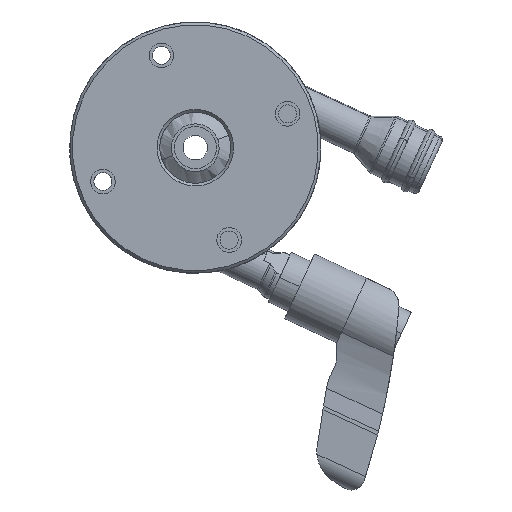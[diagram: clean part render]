
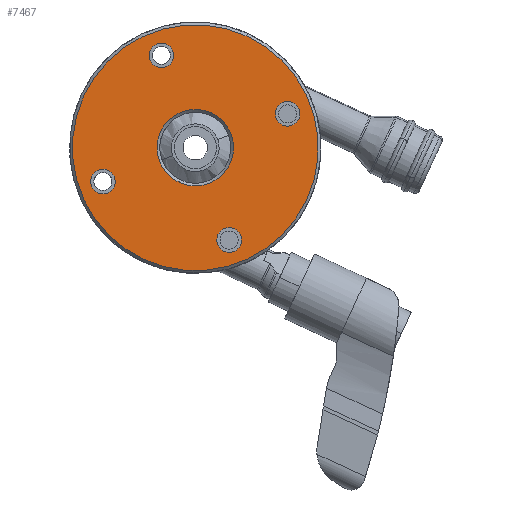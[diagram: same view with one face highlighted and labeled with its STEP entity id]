
A CAD part, front view. The second image highlights one B-rep face of the part: STEP entity #7467.
In plain terms, the highlighted planar face has unit normal (0, -1, 0).
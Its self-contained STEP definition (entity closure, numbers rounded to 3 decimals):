
#3 = VERTEX_POINT ( 'NONE', #13497 ) ;
#59 = CIRCLE ( 'NONE', #14742, 7. ) ;
#361 = DIRECTION ( 'NONE',  ( 0., -1., 0. ) ) ;
#796 = EDGE_CURVE ( 'NONE', #13151, #3172, #12881, .T. ) ;
#1084 = VERTEX_POINT ( 'NONE', #6428 ) ;
#1096 = CIRCLE ( 'NONE', #12020, 2.25 ) ;
#1187 = CARTESIAN_POINT ( 'NONE',  ( -12.728, -23., 12.728 ) ) ;
#1242 = AXIS2_PLACEMENT_3D ( 'NONE', #15076, #4193, #11753 ) ;
#1840 = AXIS2_PLACEMENT_3D ( 'NONE', #13831, #11770, #11537 ) ;
#1848 = FACE_BOUND ( 'NONE', #3426, .T. ) ;
#2084 = CARTESIAN_POINT ( 'NONE',  ( 0., -23., 0. ) ) ;
#2125 = EDGE_LOOP ( 'NONE', ( #8503, #12185 ) ) ;
#2217 = AXIS2_PLACEMENT_3D ( 'NONE', #12159, #15545, #2548 ) ;
#2292 = DIRECTION ( 'NONE',  ( 0., 1., 0. ) ) ;
#2308 = CARTESIAN_POINT ( 'NONE',  ( 0., -23., 7. ) ) ;
#2385 = DIRECTION ( 'NONE',  ( 0., 0., 1. ) ) ;
#2387 = VERTEX_POINT ( 'NONE', #5479 ) ;
#2548 = DIRECTION ( 'NONE',  ( 0., 0., 1. ) ) ;
#2703 = ORIENTED_EDGE ( 'NONE', *, *, #8786, .F. ) ;
#2776 = EDGE_CURVE ( 'NONE', #11129, #1084, #13900, .T. ) ;
#2887 = EDGE_LOOP ( 'NONE', ( #11879, #14486 ) ) ;
#2947 = VERTEX_POINT ( 'NONE', #2308 ) ;
#3036 = FACE_BOUND ( 'NONE', #11531, .T. ) ;
#3172 = VERTEX_POINT ( 'NONE', #4548 ) ;
#3426 = EDGE_LOOP ( 'NONE', ( #8238, #12432 ) ) ;
#3472 = CIRCLE ( 'NONE', #7797, 2.25 ) ;
#3527 = EDGE_CURVE ( 'NONE', #1084, #11129, #15433, .T. ) ;
#3692 = VERTEX_POINT ( 'NONE', #6730 ) ;
#3740 = VERTEX_POINT ( 'NONE', #4751 ) ;
#3928 = VERTEX_POINT ( 'NONE', #13844 ) ;
#4193 = DIRECTION ( 'NONE',  ( 0., -1., 0. ) ) ;
#4370 = PLANE ( 'NONE',  #15270 ) ;
#4388 = CARTESIAN_POINT ( 'NONE',  ( -12.728, -23., -12.728 ) ) ;
#4470 = DIRECTION ( 'NONE',  ( 0., -1., 0. ) ) ;
#4548 = CARTESIAN_POINT ( 'NONE',  ( 12.728, -23., 10.478 ) ) ;
#4552 = DIRECTION ( 'NONE',  ( 0., 0., 1. ) ) ;
#4751 = CARTESIAN_POINT ( 'NONE',  ( -12.728, -23., 14.978 ) ) ;
#4924 = DIRECTION ( 'NONE',  ( 0., -1., 0. ) ) ;
#4963 = DIRECTION ( 'NONE',  ( 0., 0., 1. ) ) ;
#5131 = CIRCLE ( 'NONE', #13991, 2.25 ) ;
#5479 = CARTESIAN_POINT ( 'NONE',  ( 12.728, -23., -10.478 ) ) ;
#5612 = EDGE_CURVE ( 'NONE', #3692, #2947, #13245, .T. ) ;
#6035 = AXIS2_PLACEMENT_3D ( 'NONE', #7665, #11328, #4963 ) ;
#6324 = VERTEX_POINT ( 'NONE', #8882 ) ;
#6347 = EDGE_CURVE ( 'NONE', #10312, #3, #5131, .T. ) ;
#6385 = DIRECTION ( 'NONE',  ( 0., 0., 1. ) ) ;
#6428 = CARTESIAN_POINT ( 'NONE',  ( 0., -23., -22.5 ) ) ;
#6460 = CARTESIAN_POINT ( 'NONE',  ( -12.728, -23., -12.728 ) ) ;
#6522 = CIRCLE ( 'NONE', #2217, 2.25 ) ;
#6548 = CIRCLE ( 'NONE', #14661, 2.25 ) ;
#6586 = EDGE_LOOP ( 'NONE', ( #9147, #13192 ) ) ;
#6679 = DIRECTION ( 'NONE',  ( 0., -1., 0. ) ) ;
#6730 = CARTESIAN_POINT ( 'NONE',  ( 0., -23., -7. ) ) ;
#7465 = DIRECTION ( 'NONE',  ( 0., 0., 1. ) ) ;
#7467 = ADVANCED_FACE ( 'NONE', ( #13909, #9372, #3036, #14120, #1848, #10346 ), #4370, .F. ) ;
#7665 = CARTESIAN_POINT ( 'NONE',  ( 12.728, -23., 12.728 ) ) ;
#7723 = ORIENTED_EDGE ( 'NONE', *, *, #9818, .F. ) ;
#7728 = EDGE_CURVE ( 'NONE', #2947, #3692, #59, .T. ) ;
#7797 = AXIS2_PLACEMENT_3D ( 'NONE', #15353, #12605, #11568 ) ;
#8027 = DIRECTION ( 'NONE',  ( 0., 1., 0. ) ) ;
#8070 = DIRECTION ( 'NONE',  ( 0., 0., 1. ) ) ;
#8238 = ORIENTED_EDGE ( 'NONE', *, *, #5612, .T. ) ;
#8503 = ORIENTED_EDGE ( 'NONE', *, *, #2776, .T. ) ;
#8786 = EDGE_CURVE ( 'NONE', #2387, #6324, #6522, .T. ) ;
#8882 = CARTESIAN_POINT ( 'NONE',  ( 12.728, -23., -14.978 ) ) ;
#8938 = DIRECTION ( 'NONE',  ( 0., -1., 0. ) ) ;
#9147 = ORIENTED_EDGE ( 'NONE', *, *, #796, .F. ) ;
#9221 = CARTESIAN_POINT ( 'NONE',  ( 6.5, -23., 0. ) ) ;
#9372 = FACE_BOUND ( 'NONE', #2887, .T. ) ;
#9425 = EDGE_CURVE ( 'NONE', #3740, #3928, #6548, .T. ) ;
#9452 = AXIS2_PLACEMENT_3D ( 'NONE', #13399, #9590, #2385 ) ;
#9590 = DIRECTION ( 'NONE',  ( 0., -1., 0. ) ) ;
#9712 = ORIENTED_EDGE ( 'NONE', *, *, #14749, .F. ) ;
#9818 = EDGE_CURVE ( 'NONE', #6324, #2387, #12505, .T. ) ;
#10312 = VERTEX_POINT ( 'NONE', #14911 ) ;
#10327 = EDGE_CURVE ( 'NONE', #3172, #13151, #1096, .T. ) ;
#10346 = FACE_OUTER_BOUND ( 'NONE', #2125, .T. ) ;
#10376 = CARTESIAN_POINT ( 'NONE',  ( 12.728, -23., 12.728 ) ) ;
#11129 = VERTEX_POINT ( 'NONE', #12621 ) ;
#11328 = DIRECTION ( 'NONE',  ( 0., -1., 0. ) ) ;
#11531 = EDGE_LOOP ( 'NONE', ( #12335, #9712 ) ) ;
#11537 = DIRECTION ( 'NONE',  ( 0., 0., 1. ) ) ;
#11568 = DIRECTION ( 'NONE',  ( 0., 0., 1. ) ) ;
#11753 = DIRECTION ( 'NONE',  ( 0., 0., 1. ) ) ;
#11770 = DIRECTION ( 'NONE',  ( 0., 1., 0. ) ) ;
#11879 = ORIENTED_EDGE ( 'NONE', *, *, #6347, .F. ) ;
#12020 = AXIS2_PLACEMENT_3D ( 'NONE', #10376, #4470, #4552 ) ;
#12139 = AXIS2_PLACEMENT_3D ( 'NONE', #4388, #8938, #13928 ) ;
#12159 = CARTESIAN_POINT ( 'NONE',  ( 12.728, -23., -12.728 ) ) ;
#12185 = ORIENTED_EDGE ( 'NONE', *, *, #3527, .T. ) ;
#12262 = CARTESIAN_POINT ( 'NONE',  ( 12.728, -23., 14.978 ) ) ;
#12335 = ORIENTED_EDGE ( 'NONE', *, *, #9425, .F. ) ;
#12432 = ORIENTED_EDGE ( 'NONE', *, *, #7728, .T. ) ;
#12505 = CIRCLE ( 'NONE', #9452, 2.25 ) ;
#12605 = DIRECTION ( 'NONE',  ( 0., -1., 0. ) ) ;
#12621 = CARTESIAN_POINT ( 'NONE',  ( 0., -23., 22.5 ) ) ;
#12870 = DIRECTION ( 'NONE',  ( 0., 0., 1. ) ) ;
#12881 = CIRCLE ( 'NONE', #6035, 2.25 ) ;
#13151 = VERTEX_POINT ( 'NONE', #12262 ) ;
#13192 = ORIENTED_EDGE ( 'NONE', *, *, #10327, .F. ) ;
#13245 = CIRCLE ( 'NONE', #1840, 7. ) ;
#13397 = CIRCLE ( 'NONE', #12139, 2.25 ) ;
#13399 = CARTESIAN_POINT ( 'NONE',  ( 12.728, -23., -12.728 ) ) ;
#13457 = EDGE_LOOP ( 'NONE', ( #2703, #7723 ) ) ;
#13497 = CARTESIAN_POINT ( 'NONE',  ( -12.728, -23., -14.978 ) ) ;
#13831 = CARTESIAN_POINT ( 'NONE',  ( 0., -23., 0. ) ) ;
#13844 = CARTESIAN_POINT ( 'NONE',  ( -12.728, -23., 10.478 ) ) ;
#13900 = CIRCLE ( 'NONE', #1242, 22.5 ) ;
#13909 = FACE_BOUND ( 'NONE', #6586, .T. ) ;
#13928 = DIRECTION ( 'NONE',  ( 0., 0., 1. ) ) ;
#13991 = AXIS2_PLACEMENT_3D ( 'NONE', #6460, #361, #6385 ) ;
#14120 = FACE_BOUND ( 'NONE', #13457, .T. ) ;
#14408 = CARTESIAN_POINT ( 'NONE',  ( 0., -23., 0. ) ) ;
#14486 = ORIENTED_EDGE ( 'NONE', *, *, #15022, .F. ) ;
#14661 = AXIS2_PLACEMENT_3D ( 'NONE', #1187, #4924, #7465 ) ;
#14742 = AXIS2_PLACEMENT_3D ( 'NONE', #14408, #2292, #8070 ) ;
#14749 = EDGE_CURVE ( 'NONE', #3928, #3740, #3472, .T. ) ;
#14911 = CARTESIAN_POINT ( 'NONE',  ( -12.728, -23., -10.478 ) ) ;
#15022 = EDGE_CURVE ( 'NONE', #3, #10312, #13397, .T. ) ;
#15076 = CARTESIAN_POINT ( 'NONE',  ( 0., -23., 0. ) ) ;
#15166 = DIRECTION ( 'NONE',  ( 0., 0., 1. ) ) ;
#15186 = AXIS2_PLACEMENT_3D ( 'NONE', #2084, #6679, #15166 ) ;
#15270 = AXIS2_PLACEMENT_3D ( 'NONE', #9221, #8027, #12870 ) ;
#15353 = CARTESIAN_POINT ( 'NONE',  ( -12.728, -23., 12.728 ) ) ;
#15433 = CIRCLE ( 'NONE', #15186, 22.5 ) ;
#15545 = DIRECTION ( 'NONE',  ( 0., -1., 0. ) ) ;
